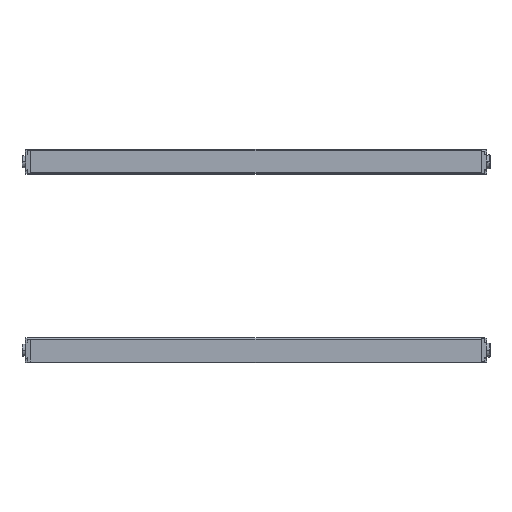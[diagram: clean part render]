
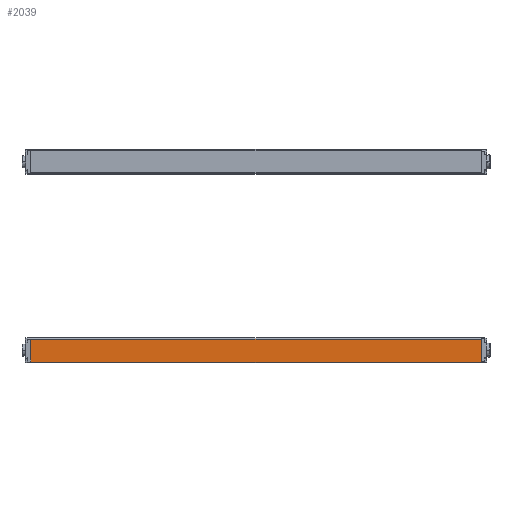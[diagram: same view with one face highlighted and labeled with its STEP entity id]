
A CAD part, left-side view. The second image highlights one B-rep face of the part: STEP entity #2039.
In plain terms, the highlighted planar face has unit normal (-1, 0, -0.009) as drawn and (1, 0, 0) by its records, which use the part's own axes.
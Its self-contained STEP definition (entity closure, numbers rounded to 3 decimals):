
#388 = DIRECTION ( 'NONE',  ( -1., 0., 0. ) ) ;
#519 = DIRECTION ( 'NONE',  ( 0., 1., 0. ) ) ;
#721 = VECTOR ( 'NONE', #519, 1000. ) ;
#941 = DIRECTION ( 'NONE',  ( 0., 0., -1. ) ) ;
#1772 = FACE_OUTER_BOUND ( 'NONE', #16246, .T. ) ;
#2039 = ADVANCED_FACE ( 'NONE', ( #1772 ), #7335, .F. ) ;
#2442 = CARTESIAN_POINT ( 'NONE',  ( 15., 0., -16.693 ) ) ;
#2905 = ORIENTED_EDGE ( 'NONE', *, *, #4625, .T. ) ;
#3564 = CARTESIAN_POINT ( 'NONE',  ( 15., 550., 10.9 ) ) ;
#3947 = CARTESIAN_POINT ( 'NONE',  ( 15., 550., 10.9 ) ) ;
#3995 = VECTOR ( 'NONE', #9097, 1000. ) ;
#4625 = EDGE_CURVE ( 'NONE', #8048, #6225, #15995, .T. ) ;
#4723 = ORIENTED_EDGE ( 'NONE', *, *, #8618, .T. ) ;
#4883 = CARTESIAN_POINT ( 'NONE',  ( 15., 0., -16.9 ) ) ;
#5979 = DIRECTION ( 'NONE',  ( 0., 0., 1. ) ) ;
#6225 = VERTEX_POINT ( 'NONE', #17302 ) ;
#6520 = AXIS2_PLACEMENT_3D ( 'NONE', #12869, #388, #5979 ) ;
#7087 = EDGE_CURVE ( 'NONE', #8048, #13374, #7894, .T. ) ;
#7335 = PLANE ( 'NONE',  #6520 ) ;
#7463 = LINE ( 'NONE', #13005, #721 ) ;
#7894 = LINE ( 'NONE', #13421, #8595 ) ;
#8048 = VERTEX_POINT ( 'NONE', #3947 ) ;
#8595 = VECTOR ( 'NONE', #941, 1000. ) ;
#8618 = EDGE_CURVE ( 'NONE', #6225, #10950, #17314, .T. ) ;
#9097 = DIRECTION ( 'NONE',  ( 0., -1., 0. ) ) ;
#10678 = DIRECTION ( 'NONE',  ( 0., 0., -1. ) ) ;
#10950 = VERTEX_POINT ( 'NONE', #2442 ) ;
#11529 = VECTOR ( 'NONE', #10678, 1000. ) ;
#12108 = CARTESIAN_POINT ( 'NONE',  ( 15., 550., -16.693 ) ) ;
#12789 = ORIENTED_EDGE ( 'NONE', *, *, #7087, .F. ) ;
#12869 = CARTESIAN_POINT ( 'NONE',  ( 15., 550., -16.9 ) ) ;
#13005 = CARTESIAN_POINT ( 'NONE',  ( 15., 550., -16.693 ) ) ;
#13374 = VERTEX_POINT ( 'NONE', #12108 ) ;
#13421 = CARTESIAN_POINT ( 'NONE',  ( 15., 550., -16.9 ) ) ;
#13680 = EDGE_CURVE ( 'NONE', #10950, #13374, #7463, .T. ) ;
#15995 = LINE ( 'NONE', #3564, #3995 ) ;
#16246 = EDGE_LOOP ( 'NONE', ( #4723, #16292, #12789, #2905 ) ) ;
#16292 = ORIENTED_EDGE ( 'NONE', *, *, #13680, .T. ) ;
#17302 = CARTESIAN_POINT ( 'NONE',  ( 15., 0., 10.9 ) ) ;
#17314 = LINE ( 'NONE', #4883, #11529 ) ;
